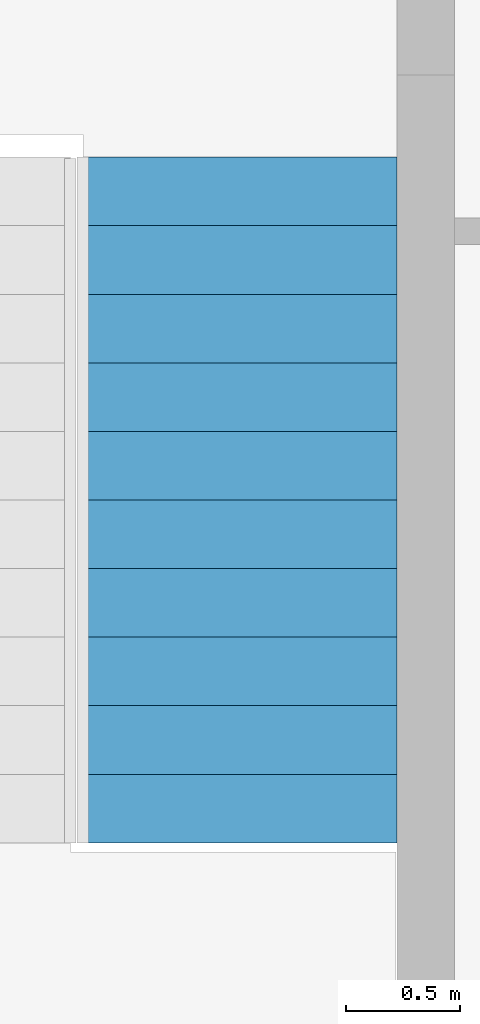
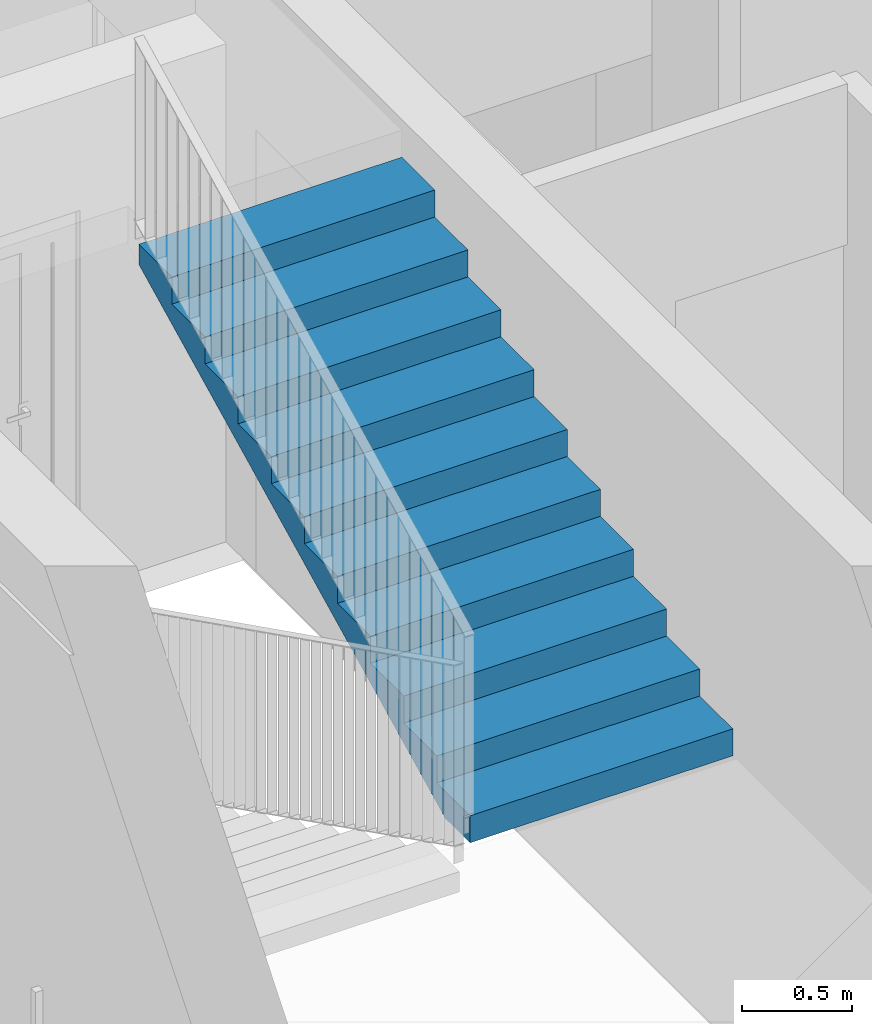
# One storey, part 18 of 48: 1 stair flight, 1 element without a shape of its own.
"""IFC2X3 building model written with IfcOpenShell, lengths in millimetres."""

from ifc_helpers import new_model, entity, si_unit, converted_unit, derived_unit, direction, frame, origin, place, context, subcontext, project, spatial, faceted_brep, material, type_object, element, aggregate, save


model = new_model("IFC2X3")

# Units and contexts
model_context = context("Model", 3, precision=0.01, world=origin(), true_north=direction((6.12303176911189e-17, 1.0)))
body_context = subcontext(model_context, "Body", "Model", "MODEL_VIEW")
ifc_project = project(units=[si_unit("LENGTHUNIT", "METRE", prefix="MILLI"), si_unit("AREAUNIT", "SQUARE_METRE"), si_unit("VOLUMEUNIT", "CUBIC_METRE"), converted_unit("PLANEANGLEUNIT", "DEGREE", entity("IfcRatioMeasure", 0.0174532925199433), si_unit("PLANEANGLEUNIT", "RADIAN"), dimensions=[0, 0, 0, 0, 0, 0, 0]), si_unit("MASSUNIT", "GRAM", prefix="KILO"), derived_unit("MASSDENSITYUNIT", [(si_unit("MASSUNIT", "GRAM", prefix="KILO"), 1), (si_unit("LENGTHUNIT", "METRE"), -3)]), si_unit("TIMEUNIT", "SECOND"), si_unit("FREQUENCYUNIT", "HERTZ"), si_unit("THERMODYNAMICTEMPERATUREUNIT", "DEGREE_CELSIUS"), derived_unit("THERMALTRANSMITTANCEUNIT", [(si_unit("MASSUNIT", "GRAM", prefix="KILO"), 1), (si_unit("THERMODYNAMICTEMPERATUREUNIT", "KELVIN"), -1), (si_unit("TIMEUNIT", "SECOND"), -3)]), derived_unit("VOLUMETRICFLOWRATEUNIT", [(si_unit("LENGTHUNIT", "METRE"), 3), (si_unit("TIMEUNIT", "SECOND"), -1)]), si_unit("ELECTRICCURRENTUNIT", "AMPERE"), si_unit("ELECTRICVOLTAGEUNIT", "VOLT"), si_unit("POWERUNIT", "WATT"), si_unit("FORCEUNIT", "NEWTON", prefix="KILO"), si_unit("ILLUMINANCEUNIT", "LUX"), si_unit("LUMINOUSFLUXUNIT", "LUMEN"), si_unit("LUMINOUSINTENSITYUNIT", "CANDELA"), derived_unit("USERDEFINED", [(si_unit("MASSUNIT", "GRAM", prefix="KILO"), -1), (si_unit("LENGTHUNIT", "METRE"), -2), (si_unit("TIMEUNIT", "SECOND"), 3), (si_unit("LUMINOUSFLUXUNIT", "LUMEN"), 1)]), derived_unit("LINEARVELOCITYUNIT", [(si_unit("LENGTHUNIT", "METRE"), 1), (si_unit("TIMEUNIT", "SECOND"), -1)]), si_unit("PRESSUREUNIT", "PASCAL"), derived_unit("USERDEFINED", [(si_unit("LENGTHUNIT", "METRE"), -2), (si_unit("MASSUNIT", "GRAM", prefix="KILO"), 1), (si_unit("TIMEUNIT", "SECOND"), -2)]), derived_unit("LINEARFORCEUNIT", [(si_unit("MASSUNIT", "GRAM", prefix="KILO"), 1), (si_unit("LENGTHUNIT", "METRE"), 1), (si_unit("TIMEUNIT", "SECOND"), -2), (si_unit("LENGTHUNIT", "METRE"), -1)]), derived_unit("PLANARFORCEUNIT", [(si_unit("MASSUNIT", "GRAM", prefix="KILO"), 1), (si_unit("LENGTHUNIT", "METRE"), 1), (si_unit("TIMEUNIT", "SECOND"), -2), (si_unit("LENGTHUNIT", "METRE"), -2)])], contexts=[model_context])

# Site, building, storey
site_placement = place(None, origin())
site = spatial("IfcSite", under=ifc_project, at=site_placement, Name="Default", CompositionType="ELEMENT")
building_placement = place(site_placement, origin())
building = spatial("IfcBuilding", under=site, at=building_placement, Name="SMA ARH", CompositionType="ELEMENT")
storey_placement = place(building_placement, frame((0.0, 0.0, 3300.0)))
storey = spatial("IfcBuildingStorey", under=building, at=storey_placement, Name="2 Korrus", CompositionType="ELEMENT", Elevation=3299.99999999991)

# Stair, stair flight
stair_placement = place(storey_placement, origin())
stair = element("IfcStair", 1, at=stair_placement, inside=storey, Name="Cast-In-Place Stair:Stair", ObjectType="Cast-In-Place Stair:Cast-In-Place Stair", ShapeType="STRAIGHT_RUN_STAIR")
ifc_material = material(Name="EST. Betoon. Armeeritud. Monteeritav(1)")
stair_flight_type = type_object("IfcStairFlightType", Name="Monolithic Run:Monolithic Run", PredefinedType="NOTDEFINED")
stair_flight_placement = place(stair_placement, frame((32240.0, 1650.0, 0.0)))
stair_flight = element("IfcStairFlight", 2, at=stair_flight_placement, type_object=stair_flight_type, material=ifc_material, Name="Cast-In-Place Stair:Stair:1055754 Run 1", ObjectType="Monolithic Run:Monolithic Run", NumberOfRiser=11, NumberOfTreads=10, RiserHeight=0.489143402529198, TreadLength=0.984251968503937, context=body_context, shape_type="Brep", body=[
    faceted_brep([(0.0, 300.0, 1749.0909090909), (0.0, 0.0, 1749.0909090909), (1375.0, 0.0, 1749.0909090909), (1375.0, 300.0, 1749.0909090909), (0.0, 300.0, 1637.42270055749), (0.0, 224.698224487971, 1600.0), (0.0, 0.0, 1600.0), (1375.0, 0.0, 1600.0), (1375.0, 224.698224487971, 1600.0), (1375.0, 300.0, 1637.42270055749), (0.0, 600.0, 1898.1818181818), (0.0, 300.0, 1898.1818181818), (1375.0, 300.0, 1898.1818181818), (1375.0, 600.0, 1898.1818181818), (0.0, 600.0, 1786.51360964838), (1375.0, 600.0, 1786.51360964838), (0.0, 900.0, 2047.2727272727), (0.0, 600.0, 2047.2727272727), (1375.0, 600.0, 2047.2727272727), (1375.0, 900.0, 2047.2727272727), (0.0, 900.0, 1935.60451873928), (1375.0, 900.0, 1935.60451873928), (0.0, 1200.0, 2196.3636363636), (0.0, 900.0, 2196.3636363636), (1375.0, 900.0, 2196.3636363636), (1375.0, 1200.0, 2196.3636363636), (0.0, 1200.0, 2084.69542783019), (1375.0, 1200.0, 2084.69542783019), (0.0, 1500.0, 2345.4545454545), (0.0, 1200.0, 2345.4545454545), (1375.0, 1200.0, 2345.4545454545), (1375.0, 1500.0, 2345.4545454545), (0.0, 1500.0, 2233.78633692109), (1375.0, 1500.0, 2233.78633692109), (0.0, 1800.0, 2494.5454545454), (0.0, 1500.0, 2494.5454545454), (1375.0, 1500.0, 2494.5454545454), (1375.0, 1800.0, 2494.5454545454), (0.0, 1800.0, 2382.87724601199), (1375.0, 1800.0, 2382.87724601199), (0.0, 2100.0, 2643.6363636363), (0.0, 1800.0, 2643.6363636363), (1375.0, 1800.0, 2643.6363636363), (1375.0, 2100.0, 2643.6363636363), (0.0, 2100.0, 2531.96815510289), (1375.0, 2100.0, 2531.96815510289), (0.0, 2400.0, 2792.7272727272), (0.0, 2100.0, 2792.7272727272), (1375.0, 2100.0, 2792.7272727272), (1375.0, 2400.0, 2792.7272727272), (0.0, 2400.0, 2681.05906419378), (1375.0, 2400.0, 2681.05906419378), (0.0, 2700.0, 2941.81818181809), (0.0, 2400.0, 2941.81818181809), (1375.0, 2400.0, 2941.81818181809), (1375.0, 2700.0, 2941.81818181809), (0.0, 2700.0, 2830.14997328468), (1375.0, 2700.0, 2830.14997328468), (0.0, 3000.0, 2979.24088237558), (1375.0, 3000.0, 2979.24088237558), (0.0, 3000.0, 3090.90909090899), (0.0, 2700.0, 3090.90909090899), (1375.0, 2700.0, 3090.90909090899), (1375.0, 3000.0, 3090.90909090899)], [[[0, 1, 2, 3]], [[1, 0, 4, 5, 6]], [[2, 1, 6, 7]], [[3, 2, 7, 8, 9]], [[10, 11, 12, 13]], [[11, 10, 14, 4, 0]], [[0, 3, 12, 11]], [[13, 12, 3, 9, 15]], [[16, 17, 18, 19]], [[17, 16, 20, 14, 10]], [[10, 13, 18, 17]], [[19, 18, 13, 15, 21]], [[22, 23, 24, 25]], [[23, 22, 26, 20, 16]], [[16, 19, 24, 23]], [[25, 24, 19, 21, 27]], [[28, 29, 30, 31]], [[29, 28, 32, 26, 22]], [[22, 25, 30, 29]], [[31, 30, 25, 27, 33]], [[34, 35, 36, 37]], [[35, 34, 38, 32, 28]], [[28, 31, 36, 35]], [[37, 36, 31, 33, 39]], [[40, 41, 42, 43]], [[41, 40, 44, 38, 34]], [[34, 37, 42, 41]], [[43, 42, 37, 39, 45]], [[46, 47, 48, 49]], [[47, 46, 50, 44, 40]], [[40, 43, 48, 47]], [[49, 48, 43, 45, 51]], [[52, 53, 54, 55]], [[53, 52, 56, 50, 46]], [[46, 49, 54, 53]], [[55, 54, 49, 51, 57]], [[7, 6, 5, 8]], [[8, 5, 4, 14, 20, 26, 32, 38, 44, 50, 56, 58, 59, 57, 51, 45, 39, 33, 27, 21, 15, 9]], [[60, 61, 62, 63]], [[61, 60, 58, 56, 52]], [[52, 55, 62, 61]], [[63, 62, 55, 57, 59]], [[60, 63, 59, 58]]]),
])
aggregate(stair, [stair_flight])

save(model, "model.ifc")
